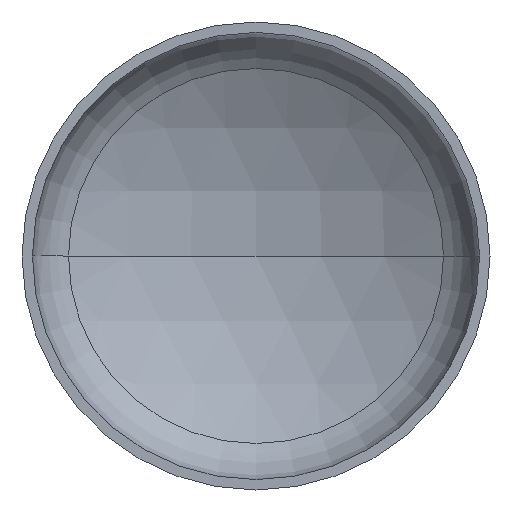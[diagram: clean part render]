
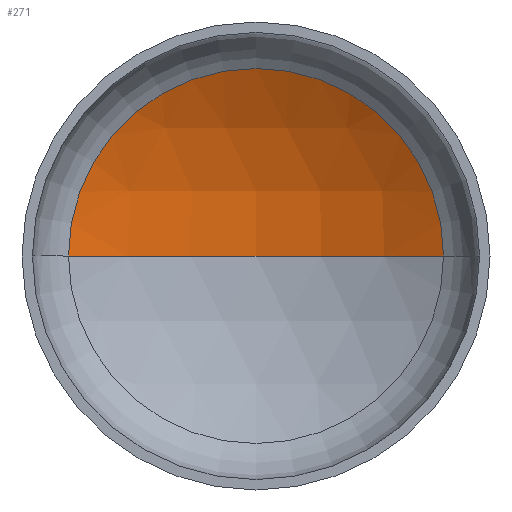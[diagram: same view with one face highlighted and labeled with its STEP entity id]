
A CAD part, front view. The second image highlights one B-rep face of the part: STEP entity #271.
In plain terms, the highlighted spherical face has radius 3600 mm.
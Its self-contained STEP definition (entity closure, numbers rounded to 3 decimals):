
#1 = AXIS2_PLACEMENT_3D ( 'NONE', #111, #405, #246 ) ;
#3 = ORIENTED_EDGE ( 'NONE', *, *, #79, .T. ) ;
#5 = VERTEX_POINT ( 'NONE', #284 ) ;
#17 = ORIENTED_EDGE ( 'NONE', *, *, #80, .F. ) ;
#18 = VERTEX_POINT ( 'NONE', #143 ) ;
#21 = AXIS2_PLACEMENT_3D ( 'NONE', #313, #176, #270 ) ;
#22 = AXIS2_PLACEMENT_3D ( 'NONE', #358, #272, #124 ) ;
#25 = AXIS2_PLACEMENT_3D ( 'NONE', #400, #102, #265 ) ;
#51 = EDGE_LOOP ( 'NONE', ( #17, #3, #112 ) ) ;
#59 = VERTEX_POINT ( 'NONE', #154 ) ;
#77 = EDGE_CURVE ( 'NONE', #59, #18, #215, .T. ) ;
#79 = EDGE_CURVE ( 'NONE', #5, #59, #158, .T. ) ;
#80 = EDGE_CURVE ( 'NONE', #5, #18, #392, .T. ) ;
#102 = DIRECTION ( 'NONE',  ( 0., -1., 0. ) ) ;
#111 = CARTESIAN_POINT ( 'NONE',  ( 0., -2414.359, 0. ) ) ;
#112 = ORIENTED_EDGE ( 'NONE', *, *, #77, .T. ) ;
#124 = DIRECTION ( 'NONE',  ( -1., 0., 0. ) ) ;
#143 = CARTESIAN_POINT ( 'NONE',  ( -1803.098, 701.542, 0. ) ) ;
#154 = CARTESIAN_POINT ( 'NONE',  ( 1803.098, 701.542, 0. ) ) ;
#158 = CIRCLE ( 'NONE', #22, 3600. ) ;
#176 = DIRECTION ( 'NONE',  ( 0., 0., 1. ) ) ;
#215 = CIRCLE ( 'NONE', #25, 1803.098 ) ;
#246 = DIRECTION ( 'NONE',  ( -1., 0., 0. ) ) ;
#265 = DIRECTION ( 'NONE',  ( 1., 0., 0. ) ) ;
#270 = DIRECTION ( 'NONE',  ( 1., 0., 0. ) ) ;
#271 = ADVANCED_FACE ( 'NONE', ( #306 ), #377, .F. ) ;
#272 = DIRECTION ( 'NONE',  ( 0., 0., -1. ) ) ;
#284 = CARTESIAN_POINT ( 'NONE',  ( 0., 1185.641, 0. ) ) ;
#306 = FACE_OUTER_BOUND ( 'NONE', #51, .T. ) ;
#313 = CARTESIAN_POINT ( 'NONE',  ( 0., -2414.359, 0. ) ) ;
#358 = CARTESIAN_POINT ( 'NONE',  ( 0., -2414.359, 0. ) ) ;
#377 = SPHERICAL_SURFACE ( 'NONE', #1, 3600. ) ;
#392 = CIRCLE ( 'NONE', #21, 3600. ) ;
#400 = CARTESIAN_POINT ( 'NONE',  ( 0., 701.542, 0. ) ) ;
#405 = DIRECTION ( 'NONE',  ( 0., 0., -1. ) ) ;
